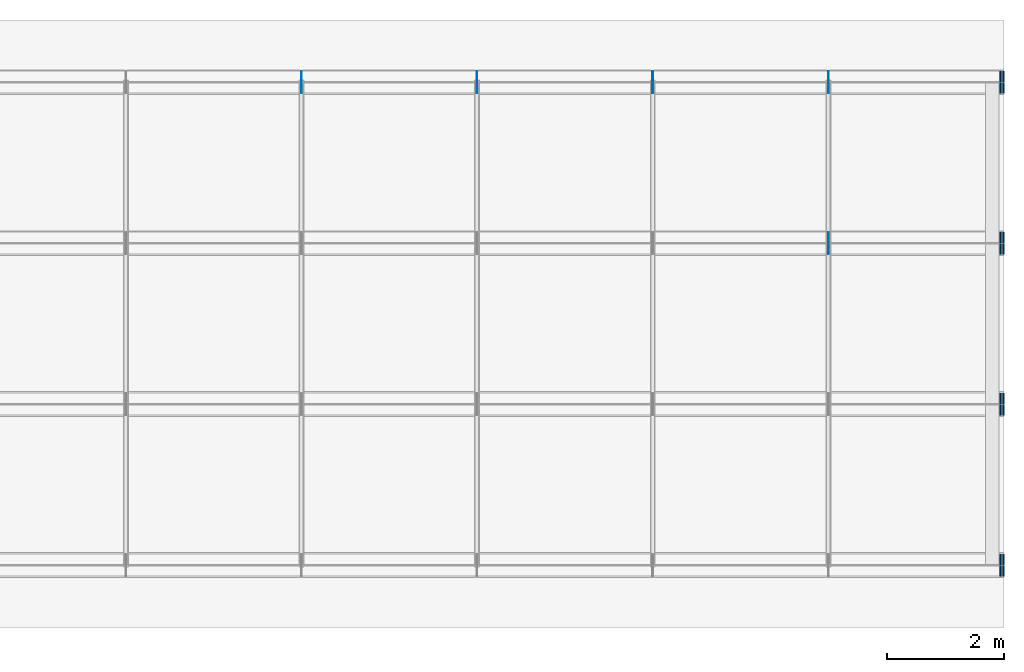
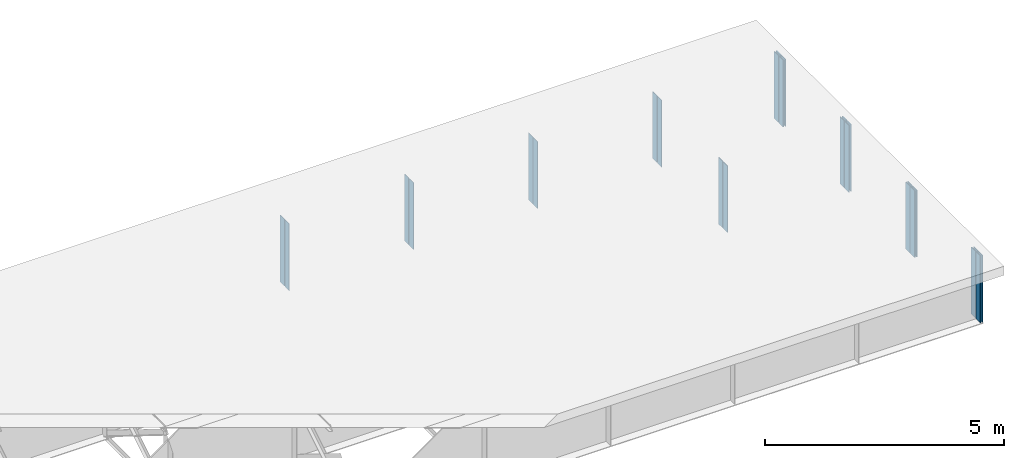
# One storey, part 11 of 11: 26 plates.
"""IFC4 building model written with IfcOpenShell, lengths in metres."""

from ifc_helpers import new_model, si_unit, frame, origin, origin_with_axes, origin_2d_with_axis, place, context, subcontext, project, spatial, rectangle, extrude, element, save


model = new_model("IFC4")

# Units and contexts
model_context = context("Model", 3, precision=1e-05, world=origin())
body_context = subcontext(model_context, "Body", "Model", "MODEL_VIEW")
ifc_project = project(units=[si_unit("LENGTHUNIT", "METRE"), si_unit("AREAUNIT", "SQUARE_METRE"), si_unit("VOLUMEUNIT", "CUBIC_METRE"), si_unit("PLANEANGLEUNIT", "RADIAN")], contexts=[model_context])

# Site, building, storey
site_placement = place(None, origin_with_axes())
site = spatial("IfcSite", under=ifc_project, at=site_placement, Name="Default Site")
building_placement = place(site_placement, origin_with_axes())
building = spatial("IfcBuilding", under=site, at=building_placement, Name="Bridge Structure")
storey_placement = place(building_placement, origin_with_axes())
storey = spatial("IfcBuildingStorey", under=building, at=storey_placement, Name="Superstructure")

# Plates
for number, where, z_axis, x_axis, name in (
    (1, (29.990000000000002, -4.02675, -0.855), (0.0, 0.0, 1.0), (1.0, 0.0, 0.0), "End Stiffener 1"),
    (2, (29.990000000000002, -4.22325, -0.855), (0.0, 0.0, 1.0), (1.0, 0.0, 0.0), "End Stiffener 1"),
    (3, (29.94, -4.02675, -0.855), (0.0, 0.0, 1.0), (1.0, 0.0, 0.0), "End Stiffener 1"),
    (4, (29.94, -4.22325, -0.855), (0.0, 0.0, 1.0), (1.0, 0.0, 0.0), "End Stiffener 1"),
    (5, (29.990000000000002, -1.27675, -0.855), (0.0, 0.0, 1.0), (1.0, 0.0, 0.0), "End Stiffener 2"),
    (6, (29.990000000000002, -1.47325, -0.855), (0.0, 0.0, 1.0), (1.0, 0.0, 0.0), "End Stiffener 2"),
    (7, (29.94, -1.27675, -0.855), (0.0, 0.0, 1.0), (1.0, 0.0, 0.0), "End Stiffener 2"),
    (8, (29.94, -1.47325, -0.855), (0.0, 0.0, 1.0), (1.0, 0.0, 0.0), "End Stiffener 2"),
):
    element("IfcPlate", number, at=place(storey_placement, frame(where, z_axis=z_axis, x_axis=x_axis)), inside=storey, Name=name, context=body_context, shape_type="SweptSolid", body=[
        extrude(rectangle(XDim=0.02, YDim=0.1785, at=origin_2d_with_axis()), origin_with_axes(), (0.0, 0.0, 1.0), 1.71),
    ])
for number, where, z_axis, x_axis, name in (
    (9, (27.0, 1.47325, -0.855), (0.0, 0.0, 1.0), (1.0, 0.0, 0.0), "Intermediate Stiffener 3"),
    (10, (27.0, 1.27675, -0.855), (0.0, 0.0, 1.0), (1.0, 0.0, 0.0), "Intermediate Stiffener 3"),
):
    element("IfcPlate", number, at=place(storey_placement, frame(where, z_axis=z_axis, x_axis=x_axis)), inside=storey, Name=name, context=body_context, shape_type="SweptSolid", body=[
        extrude(rectangle(XDim=0.012, YDim=0.1785, at=origin_2d_with_axis()), origin_with_axes(), (0.0, 0.0, 1.0), 1.71),
    ])
for number, where, z_axis, x_axis, name in (
    (11, (29.990000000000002, 1.47325, -0.855), (0.0, 0.0, 1.0), (1.0, 0.0, 0.0), "End Stiffener 3"),
    (12, (29.990000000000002, 1.27675, -0.855), (0.0, 0.0, 1.0), (1.0, 0.0, 0.0), "End Stiffener 3"),
    (13, (29.94, 1.47325, -0.855), (0.0, 0.0, 1.0), (1.0, 0.0, 0.0), "End Stiffener 3"),
    (14, (29.94, 1.27675, -0.855), (0.0, 0.0, 1.0), (1.0, 0.0, 0.0), "End Stiffener 3"),
):
    element("IfcPlate", number, at=place(storey_placement, frame(where, z_axis=z_axis, x_axis=x_axis)), inside=storey, Name=name, context=body_context, shape_type="SweptSolid", body=[
        extrude(rectangle(XDim=0.02, YDim=0.1785, at=origin_2d_with_axis()), origin_with_axes(), (0.0, 0.0, 1.0), 1.71),
    ])
for number, where, z_axis, x_axis, name in (
    (15, (18.0, 4.22325, -0.855), (0.0, 0.0, 1.0), (1.0, 0.0, 0.0), "Intermediate Stiffener 4"),
    (16, (18.0, 4.02675, -0.855), (0.0, 0.0, 1.0), (1.0, 0.0, 0.0), "Intermediate Stiffener 4"),
    (17, (21.0, 4.22325, -0.855), (0.0, 0.0, 1.0), (1.0, 0.0, 0.0), "Intermediate Stiffener 4"),
    (18, (21.0, 4.02675, -0.855), (0.0, 0.0, 1.0), (1.0, 0.0, 0.0), "Intermediate Stiffener 4"),
    (19, (24.0, 4.22325, -0.855), (0.0, 0.0, 1.0), (1.0, 0.0, 0.0), "Intermediate Stiffener 4"),
    (20, (24.0, 4.02675, -0.855), (0.0, 0.0, 1.0), (1.0, 0.0, 0.0), "Intermediate Stiffener 4"),
    (21, (27.0, 4.22325, -0.855), (0.0, 0.0, 1.0), (1.0, 0.0, 0.0), "Intermediate Stiffener 4"),
    (22, (27.0, 4.02675, -0.855), (0.0, 0.0, 1.0), (1.0, 0.0, 0.0), "Intermediate Stiffener 4"),
):
    element("IfcPlate", number, at=place(storey_placement, frame(where, z_axis=z_axis, x_axis=x_axis)), inside=storey, Name=name, context=body_context, shape_type="SweptSolid", body=[
        extrude(rectangle(XDim=0.012, YDim=0.1785, at=origin_2d_with_axis()), origin_with_axes(), (0.0, 0.0, 1.0), 1.71),
    ])
for number, where, z_axis, x_axis, name in (
    (23, (29.990000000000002, 4.22325, -0.855), (0.0, 0.0, 1.0), (1.0, 0.0, 0.0), "End Stiffener 4"),
    (24, (29.990000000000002, 4.02675, -0.855), (0.0, 0.0, 1.0), (1.0, 0.0, 0.0), "End Stiffener 4"),
    (25, (29.94, 4.22325, -0.855), (0.0, 0.0, 1.0), (1.0, 0.0, 0.0), "End Stiffener 4"),
    (26, (29.94, 4.02675, -0.855), (0.0, 0.0, 1.0), (1.0, 0.0, 0.0), "End Stiffener 4"),
):
    element("IfcPlate", number, at=place(storey_placement, frame(where, z_axis=z_axis, x_axis=x_axis)), inside=storey, Name=name, context=body_context, shape_type="SweptSolid", body=[
        extrude(rectangle(XDim=0.02, YDim=0.1785, at=origin_2d_with_axis()), origin_with_axes(), (0.0, 0.0, 1.0), 1.71),
    ])

save(model, "model.ifc")
